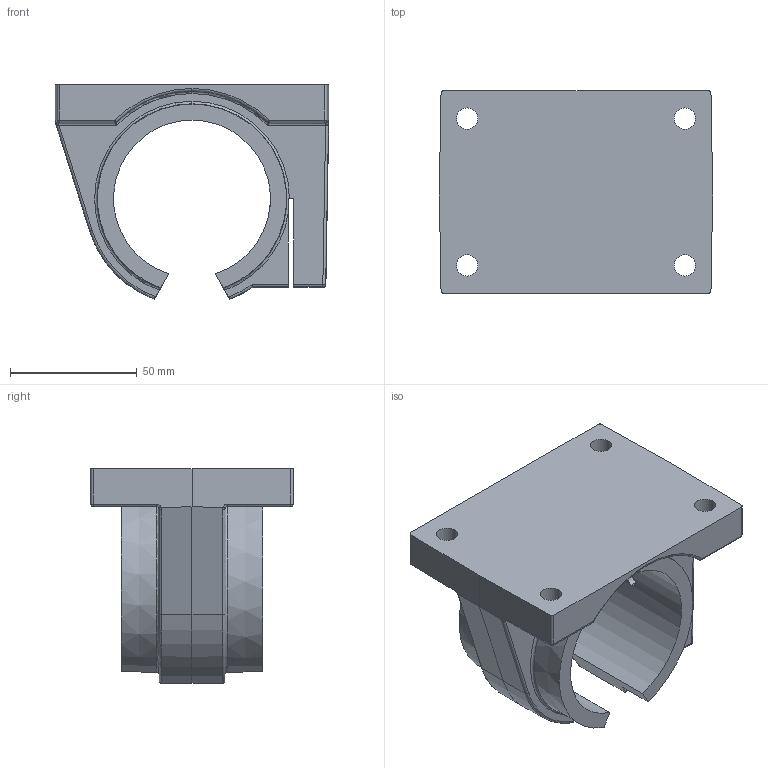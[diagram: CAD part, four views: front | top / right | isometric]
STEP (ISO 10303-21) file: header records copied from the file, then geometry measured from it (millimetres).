
FILE_DESCRIPTION (( 'STEP AP203' ), '1' );
FILE_NAME ('KGGOE68-40.step', '2020-03-10T16:16:30', ( '' ), ( '' ), 'SwSTEP 2.0', 'SolidWorks 2019', '' );
FILE_SCHEMA (( 'CONFIG_CONTROL_DESIGN' ));
Length unit declared in the file: millimetre
Products named in the file (2): KGGOE68-40
Bounding box: 107.98 x 80 x 84.78 mm (x, y, z)
Volume: 213919.4 mm3; surface area: 51436.2 mm2
Topology: 1 solids, 1 shells, 140 faces, 353 edges, 208 vertices
Faces by surface type: cylinder 57, plane 36, torus 16, bspline 12, sphere 10, cone 9
Entity records: 4761 total; most frequent: CARTESIAN_POINT 1356, DIRECTION 691, ORIENTED_EDGE 690, EDGE_CURVE 345, AXIS2_PLACEMENT_3D 277, VERTEX_POINT 208, EDGE_LOOP 155, CIRCLE 147
